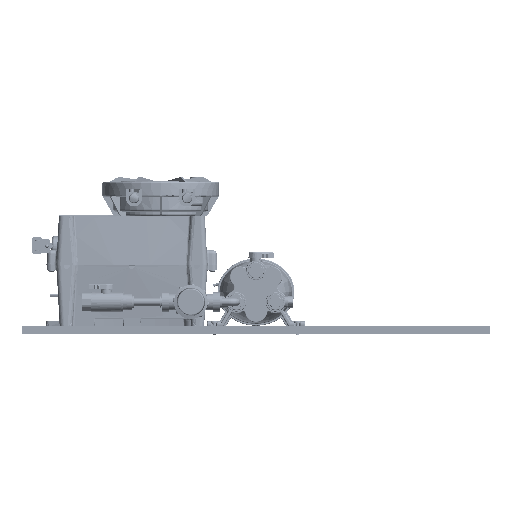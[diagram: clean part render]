
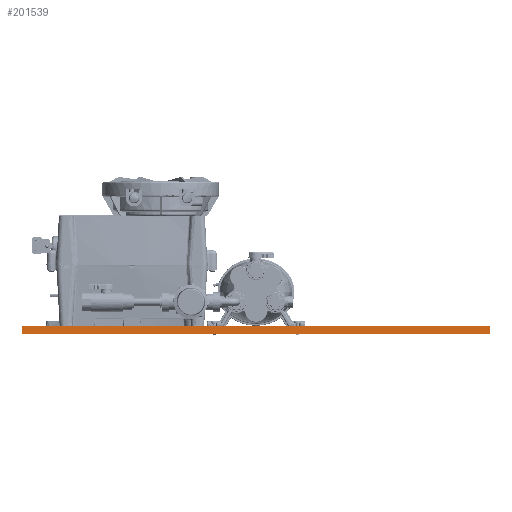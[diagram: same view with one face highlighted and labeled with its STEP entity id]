
A CAD part, front view. The second image highlights one B-rep face of the part: STEP entity #201539.
In plain terms, the highlighted planar face has unit normal (0, -1, 0).
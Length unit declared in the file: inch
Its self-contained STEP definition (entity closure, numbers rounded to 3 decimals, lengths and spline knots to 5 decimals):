
#5600 = EDGE_CURVE ( 'Defeatured_7_14+Defeatured_7_10+Defeatured_7_11+Defeatured_7_13', #248060, #254627, #157132, .T. ) ;
#12570 = ORIENTED_EDGE ( 'NONE', *, *, #221169, .F. ) ;
#26662 = CARTESIAN_POINT ( 'NONE',  ( 0., -19., -0.375 ) ) ;
#44709 = LINE ( 'NONE', #48687, #239814 ) ;
#48687 = CARTESIAN_POINT ( 'NONE',  ( 0., -19., -0.375 ) ) ;
#51086 = PLANE ( 'NONE',  #181334 ) ;
#52702 = DIRECTION ( 'NONE',  ( 0., 0., 1. ) ) ;
#80663 = VERTEX_POINT ( 'NONE', #154359 ) ;
#80889 = CARTESIAN_POINT ( 'NONE',  ( 0., -19., 0. ) ) ;
#93266 = CARTESIAN_POINT ( 'NONE',  ( 0., -19., -0.375 ) ) ;
#107616 = ORIENTED_EDGE ( 'NONE', *, *, #116659, .T. ) ;
#116531 = ORIENTED_EDGE ( 'NONE', *, *, #131883, .F. ) ;
#116659 = EDGE_CURVE ( 'Defeatured_7_14+Defeatured_7_13+Defeatured_7_10+Defeatured_7_9', #254627, #80663, #293982, .T. ) ;
#131883 = EDGE_CURVE ( 'Defeatured_7_11+Defeatured_7_14+Defeatured_7_10+Defeatured_7_9', #248060, #236333, #44709, .T. ) ;
#140227 = ORIENTED_EDGE ( 'NONE', *, *, #5600, .T. ) ;
#145341 = DIRECTION ( 'NONE',  ( 1., 0., 0. ) ) ;
#146454 = FACE_OUTER_BOUND ( 'NONE', #331436, .T. ) ;
#150482 = DIRECTION ( 'NONE',  ( 0., -1., 0. ) ) ;
#154359 = CARTESIAN_POINT ( 'NONE',  ( 24., -19., 0. ) ) ;
#157132 = LINE ( 'NONE', #223828, #236708 ) ;
#163065 = DIRECTION ( 'NONE',  ( 1., 0., 0. ) ) ;
#173732 = LINE ( 'NONE', #267068, #379043 ) ;
#181334 = AXIS2_PLACEMENT_3D ( 'NONE', #26662, #150482, #300483 ) ;
#201539 = ADVANCED_FACE ( 'Defeatured_7_14', ( #146454 ), #51086, .T. ) ;
#202674 = CARTESIAN_POINT ( 'NONE',  ( 24., -19., -0.375 ) ) ;
#221169 = EDGE_CURVE ( 'Defeatured_7_9+Defeatured_7_14+Defeatured_7_11+Defeatured_7_13', #236333, #80663, #173732, .T. ) ;
#223828 = CARTESIAN_POINT ( 'NONE',  ( 0., -19., -0.375 ) ) ;
#236333 = VERTEX_POINT ( 'NONE', #80889 ) ;
#236708 = VECTOR ( 'NONE', #163065, 39.37008 ) ;
#239814 = VECTOR ( 'NONE', #52702, 39.37008 ) ;
#248060 = VERTEX_POINT ( 'NONE', #93266 ) ;
#254627 = VERTEX_POINT ( 'NONE', #399003 ) ;
#263642 = DIRECTION ( 'NONE',  ( 0., 0., 1. ) ) ;
#267068 = CARTESIAN_POINT ( 'NONE',  ( 0., -19., 0. ) ) ;
#293982 = LINE ( 'NONE', #202674, #381757 ) ;
#300483 = DIRECTION ( 'NONE',  ( 0., 0., -1. ) ) ;
#331436 = EDGE_LOOP ( 'NONE', ( #12570, #116531, #140227, #107616 ) ) ;
#379043 = VECTOR ( 'NONE', #145341, 39.37008 ) ;
#381757 = VECTOR ( 'NONE', #263642, 39.37008 ) ;
#399003 = CARTESIAN_POINT ( 'NONE',  ( 24., -19., -0.375 ) ) ;
